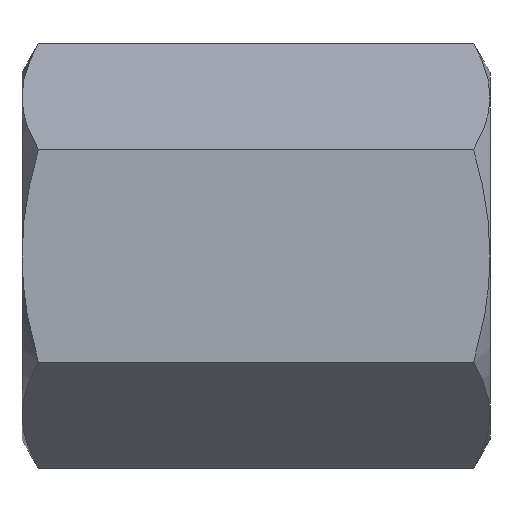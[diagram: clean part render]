
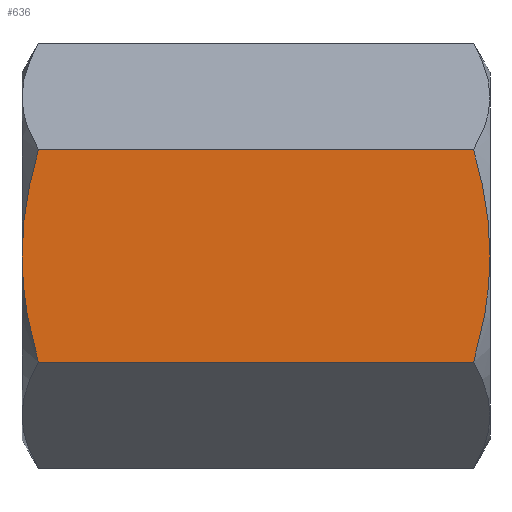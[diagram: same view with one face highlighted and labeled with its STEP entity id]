
A CAD part, left-side view. The second image highlights one B-rep face of the part: STEP entity #636.
In plain terms, the highlighted planar face has unit normal (-1, 0, 0).
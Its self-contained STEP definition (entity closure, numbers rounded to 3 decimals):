
#3 = CARTESIAN_POINT ( 'NONE',  ( -11., -13.018, 6.351 ) ) ;
#8 = LINE ( 'NONE', #889, #913 ) ;
#45 = CARTESIAN_POINT ( 'NONE',  ( -11., -13.018, 6.351 ) ) ;
#48 = CARTESIAN_POINT ( 'NONE',  ( -11., -13.314, 5.323 ) ) ;
#52 = CARTESIAN_POINT ( 'NONE',  ( -11., 14., 0. ) ) ;
#54 = CARTESIAN_POINT ( 'NONE',  ( -11., -13.561, 4.283 ) ) ;
#57 = CARTESIAN_POINT ( 'NONE',  ( -11., -13.819, 2.694 ) ) ;
#59 = CARTESIAN_POINT ( 'NONE',  ( -11., -13.886, 2.16 ) ) ;
#63 = CARTESIAN_POINT ( 'NONE',  ( -11., -13.977, 1.08 ) ) ;
#65 = CARTESIAN_POINT ( 'NONE',  ( -11., -14., 0.538 ) ) ;
#66 = CARTESIAN_POINT ( 'NONE',  ( -11., -14., 0. ) ) ;
#81 = CARTESIAN_POINT ( 'NONE',  ( -11., 14., 0. ) ) ;
#102 = CARTESIAN_POINT ( 'NONE',  ( -11., -14., 0. ) ) ;
#109 = CARTESIAN_POINT ( 'NONE',  ( -11., 13.018, 6.351 ) ) ;
#140 = EDGE_CURVE ( 'NONE', #309, #226, #496, .T. ) ;
#142 = CARTESIAN_POINT ( 'NONE',  ( -11., -14., -1.075 ) ) ;
#146 = PLANE ( 'NONE',  #425 ) ;
#167 = B_SPLINE_CURVE_WITH_KNOTS ( 'NONE', 3,
 ( #52, #826, #733, #646, #565, #485, #388, #276 ),
 .UNSPECIFIED., .F., .F.,
 ( 4, 2, 2, 4 ),
 ( 0.018, 0.02, 0.022, 0.025 ),
 .UNSPECIFIED. ) ;
#210 = VERTEX_POINT ( 'NONE', #109 ) ;
#212 = CARTESIAN_POINT ( 'NONE',  ( -11., 14., -1.075 ) ) ;
#216 = DIRECTION ( 'NONE',  ( 0., -1., 0. ) ) ;
#218 = ORIENTED_EDGE ( 'NONE', *, *, #671, .F. ) ;
#226 = VERTEX_POINT ( 'NONE', #3 ) ;
#231 = EDGE_CURVE ( 'NONE', #802, #309, #409, .T. ) ;
#276 = CARTESIAN_POINT ( 'NONE',  ( -11., 13.018, 6.351 ) ) ;
#309 = VERTEX_POINT ( 'NONE', #102 ) ;
#329 = CARTESIAN_POINT ( 'NONE',  ( -11., 13.907, -2.142 ) ) ;
#355 = CARTESIAN_POINT ( 'NONE',  ( -11., -13.651, -3.73 ) ) ;
#382 = EDGE_CURVE ( 'NONE', #669, #802, #890, .T. ) ;
#388 = CARTESIAN_POINT ( 'NONE',  ( -11., 13.314, 5.323 ) ) ;
#409 = B_SPLINE_CURVE_WITH_KNOTS ( 'NONE', 3,
 ( #575, #637, #599, #642, #355, #680, #142, #593 ),
 .UNSPECIFIED., .F., .F.,
 ( 4, 2, 2, 4 ),
 ( 0.012, 0.014, 0.015, 0.018 ),
 .UNSPECIFIED. ) ;
#412 = ORIENTED_EDGE ( 'NONE', *, *, #382, .T. ) ;
#425 = AXIS2_PLACEMENT_3D ( 'NONE', #712, #623, #545 ) ;
#429 = CARTESIAN_POINT ( 'NONE',  ( -11., 13.651, -3.73 ) ) ;
#485 = CARTESIAN_POINT ( 'NONE',  ( -11., 13.561, 4.283 ) ) ;
#488 = ORIENTED_EDGE ( 'NONE', *, *, #140, .T. ) ;
#496 = B_SPLINE_CURVE_WITH_KNOTS ( 'NONE', 3,
 ( #66, #65, #63, #59, #57, #54, #48, #45 ),
 .UNSPECIFIED., .F., .F.,
 ( 4, 2, 2, 4 ),
 ( 0.018, 0.02, 0.022, 0.025 ),
 .UNSPECIFIED. ) ;
#521 = CARTESIAN_POINT ( 'NONE',  ( -11., 13.547, -4.258 ) ) ;
#545 = DIRECTION ( 'NONE',  ( 0., 0., -1. ) ) ;
#549 = CARTESIAN_POINT ( 'NONE',  ( -11., 14., 0. ) ) ;
#565 = CARTESIAN_POINT ( 'NONE',  ( -11., 13.819, 2.694 ) ) ;
#575 = CARTESIAN_POINT ( 'NONE',  ( -11., -13.018, -6.351 ) ) ;
#593 = CARTESIAN_POINT ( 'NONE',  ( -11., -14., 0. ) ) ;
#599 = CARTESIAN_POINT ( 'NONE',  ( -11., -13.304, -5.31 ) ) ;
#600 = CARTESIAN_POINT ( 'NONE',  ( -11., 13.304, -5.31 ) ) ;
#606 = FACE_OUTER_BOUND ( 'NONE', #726, .T. ) ;
#623 = DIRECTION ( 'NONE',  ( 1., 0., 0. ) ) ;
#631 = EDGE_CURVE ( 'NONE', #210, #226, #8, .T. ) ;
#636 = ADVANCED_FACE ( 'NONE', ( #606 ), #146, .F. ) ;
#637 = CARTESIAN_POINT ( 'NONE',  ( -11., -13.167, -5.834 ) ) ;
#642 = CARTESIAN_POINT ( 'NONE',  ( -11., -13.547, -4.258 ) ) ;
#646 = CARTESIAN_POINT ( 'NONE',  ( -11., 13.886, 2.16 ) ) ;
#658 = CARTESIAN_POINT ( 'NONE',  ( -11., -13.018, -6.351 ) ) ;
#669 = VERTEX_POINT ( 'NONE', #917 ) ;
#671 = EDGE_CURVE ( 'NONE', #682, #210, #167, .T. ) ;
#680 = CARTESIAN_POINT ( 'NONE',  ( -11., -13.907, -2.142 ) ) ;
#682 = VERTEX_POINT ( 'NONE', #549 ) ;
#693 = CARTESIAN_POINT ( 'NONE',  ( -11., 13.167, -5.834 ) ) ;
#694 = B_SPLINE_CURVE_WITH_KNOTS ( 'NONE', 3,
 ( #775, #693, #600, #521, #429, #329, #212, #81 ),
 .UNSPECIFIED., .F., .F.,
 ( 4, 2, 2, 4 ),
 ( 0.012, 0.014, 0.015, 0.018 ),
 .UNSPECIFIED. ) ;
#712 = CARTESIAN_POINT ( 'NONE',  ( -11., 14., -6.351 ) ) ;
#724 = ORIENTED_EDGE ( 'NONE', *, *, #231, .T. ) ;
#726 = EDGE_LOOP ( 'NONE', ( #412, #724, #488, #795, #218, #925 ) ) ;
#733 = CARTESIAN_POINT ( 'NONE',  ( -11., 13.977, 1.08 ) ) ;
#775 = CARTESIAN_POINT ( 'NONE',  ( -11., 13.018, -6.351 ) ) ;
#795 = ORIENTED_EDGE ( 'NONE', *, *, #631, .F. ) ;
#801 = DIRECTION ( 'NONE',  ( 0., -1., 0. ) ) ;
#802 = VERTEX_POINT ( 'NONE', #658 ) ;
#826 = CARTESIAN_POINT ( 'NONE',  ( -11., 14., 0.538 ) ) ;
#855 = VECTOR ( 'NONE', #216, 1000. ) ;
#889 = CARTESIAN_POINT ( 'NONE',  ( -11., 14., 6.351 ) ) ;
#890 = LINE ( 'NONE', #966, #855 ) ;
#913 = VECTOR ( 'NONE', #801, 1000. ) ;
#917 = CARTESIAN_POINT ( 'NONE',  ( -11., 13.018, -6.351 ) ) ;
#918 = EDGE_CURVE ( 'NONE', #669, #682, #694, .T. ) ;
#925 = ORIENTED_EDGE ( 'NONE', *, *, #918, .F. ) ;
#966 = CARTESIAN_POINT ( 'NONE',  ( -11., 14., -6.351 ) ) ;
